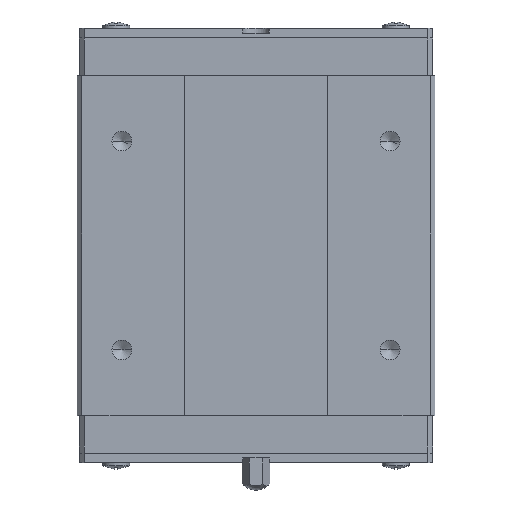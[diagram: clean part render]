
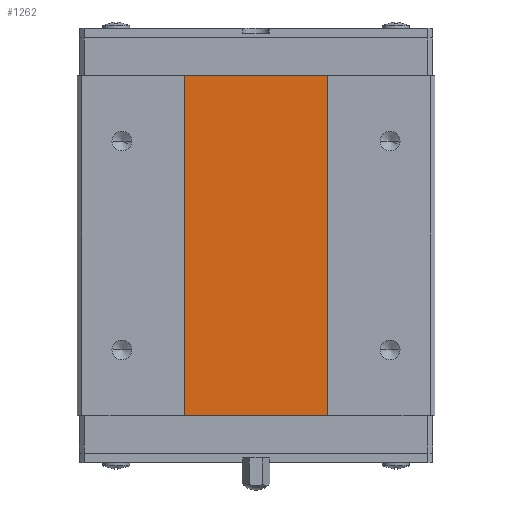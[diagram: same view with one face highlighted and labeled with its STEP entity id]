
A CAD part, top view. The second image highlights one B-rep face of the part: STEP entity #1262.
In plain terms, the highlighted planar face has unit normal (0, 0, 1).
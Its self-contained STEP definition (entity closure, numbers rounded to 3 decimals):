
#1262=ADVANCED_FACE('',(#3700),#3701,.T.);
#1590=VERTEX_POINT('',#4059);
#1622=EDGE_CURVE('',#3268,#2908,#4098,.T.);
#1624=VERTEX_POINT('',#4100);
#2290=EDGE_CURVE('',#1624,#3268,#4841,.T.);
#2698=EDGE_CURVE('',#1590,#1624,#5281,.T.);
#2908=VERTEX_POINT('',#5516);
#2948=EDGE_CURVE('',#2908,#1590,#5562,.T.);
#3268=VERTEX_POINT('',#5906);
#3700=FACE_OUTER_BOUND('',#6409,.T.);
#3701=PLANE('',#6410);
#4059=CARTESIAN_POINT('',(-12.0,7.9,15.75));
#4098=LINE('',#7068,#7069);
#4100=CARTESIAN_POINT('',(-12.0,64.9,15.75));
#4841=LINE('',#8179,#8180);
#5281=LINE('',#8915,#8916);
#5516=CARTESIAN_POINT('',(12.0,7.9,15.75));
#5562=LINE('',#9283,#9284);
#5906=CARTESIAN_POINT('',(12.0,64.9,15.75));
#6409=EDGE_LOOP('',(#10538,#10539,#10540,#10541));
#6410=AXIS2_PLACEMENT_3D('',#10542,#10543,#10544);
#7068=CARTESIAN_POINT('',(12.0,36.4,15.75));
#7069=VECTOR('',#11016,1.0);
#8179=CARTESIAN_POINT('',(0.,64.9,15.75));
#8180=VECTOR('',#11818,1.0);
#8915=CARTESIAN_POINT('',(-12.0,36.4,15.75));
#8916=VECTOR('',#12274,1.0);
#9283=CARTESIAN_POINT('',(0.0,7.9,15.75));
#9284=VECTOR('',#12644,1.0);
#10538=ORIENTED_EDGE('',*,*,#1622,.F.);
#10539=ORIENTED_EDGE('',*,*,#2290,.F.);
#10540=ORIENTED_EDGE('',*,*,#2698,.F.);
#10541=ORIENTED_EDGE('',*,*,#2948,.F.);
#10542=CARTESIAN_POINT('',(0.0,36.4,15.75));
#10543=DIRECTION('',(0.0,0.0,1.0));
#10544=DIRECTION('',(1.0,0.0,0.0));
#11016=DIRECTION('',(0.0,-1.0,0.0));
#11818=DIRECTION('',(1.0,0.0,-0.0));
#12274=DIRECTION('',(0.0,1.0,0.0));
#12644=DIRECTION('',(-1.0,0.0,0.0));
